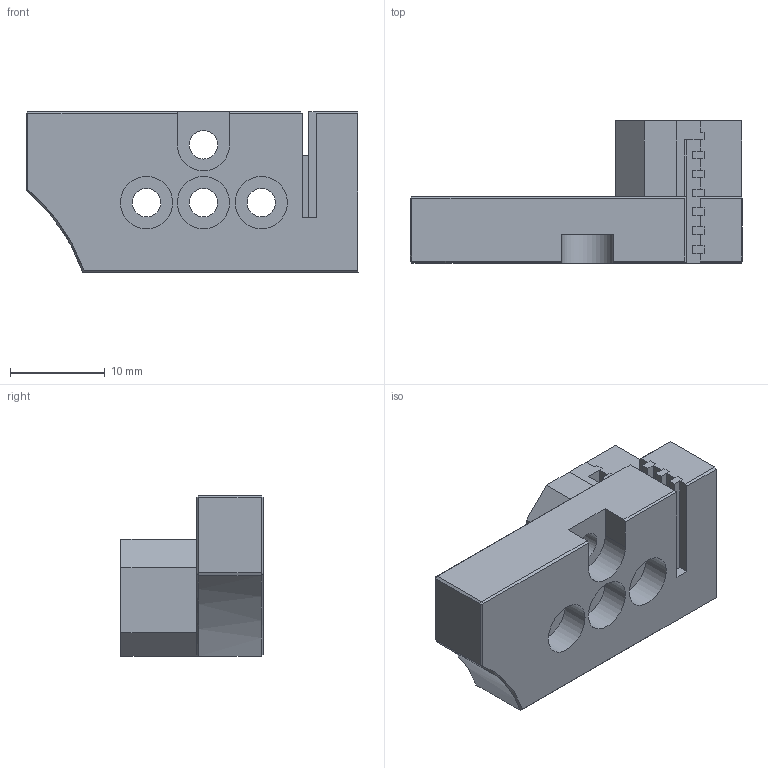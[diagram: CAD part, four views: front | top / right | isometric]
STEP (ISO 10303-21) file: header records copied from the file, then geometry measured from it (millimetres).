
FILE_DESCRIPTION(/* description */ (''),/* implementation_level */ '2;1');
FILE_NAME(/* name */ 'C:/Users/Martin/Documents/icarus-2.1/icarus-2-current-step-files/1-main-files/icarus-belt-peg-closed-belts-2.0.step',/* time_stamp */ '2022-08-22T19:36:44+02:00',/* author */ (''),/* organization */ (''),/* preprocessor_version */ 'ST-DEVELOPER v19',/* originating_system */ 'Autodesk Translation Framework v11.7.0.108',/* authorisation */ '');
FILE_SCHEMA (('AUTOMOTIVE_DESIGN { 1 0 10303 214 3 1 1 }'));
Length unit declared in the file: millimetre
Products named in the file (1): icarus
Bounding box: 35.01 x 15 x 16.95 mm (x, y, z)
Volume: 4571.8 mm3; surface area: 2852.6 mm2
Topology: 1 solids, 1 shells, 84 faces, 222 edges, 143 vertices
Faces by surface type: plane 72, cylinder 9, bspline 3
Full cylindrical faces by diameter (mm): 3 x4, 5.5 x3
Entity records: 2944 total; most frequent: CARTESIAN_POINT 539, ORIENTED_EDGE 444, DIRECTION 390, EDGE_CURVE 222, LINE 194, VECTOR 194, VERTEX_POINT 143, AXIS2_PLACEMENT_3D 98
